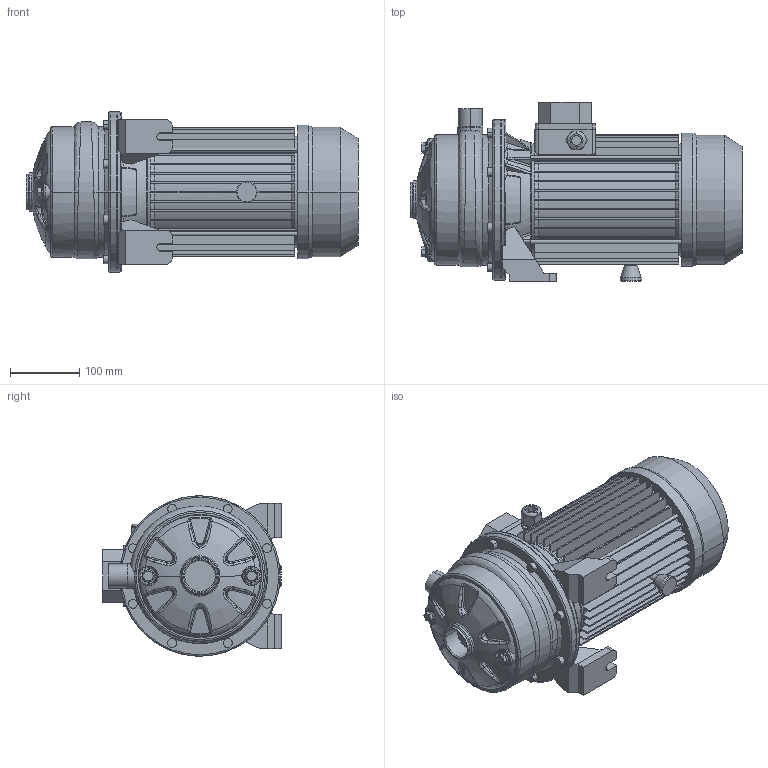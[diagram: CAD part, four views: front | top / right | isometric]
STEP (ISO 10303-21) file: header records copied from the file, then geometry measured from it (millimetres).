
FILE_DESCRIPTION((''),'2;1');
FILE_NAME('2CDX_200_50_IE2_ASM','2011-06-30T',('Utente'),('"Ebara Pumps Europe +39.444.706811"'),'PRO/ENGINEER BY PARAMETRIC TECHNOLOGY CORPORATION, 2009360','PRO/ENGINEER BY PARAMETRIC TECHNOLOGY CORPORATION, 2009360','');
FILE_SCHEMA(('AUTOMOTIVE_DESIGN { 1 0 10303 214 1 1 1 1 }'));
Length unit declared in the file: millimetre
Products named in the file (5): MEC_100X170_IE2; 80566; 251420693; 72027; 2CDX_200_50_IE2_ASM
Assembly tree (4 placements, depth 2):
  2CDX_200_50_IE2_ASM
    MEC_100X170_IE2
    80566
    251420693
    72027
Bounding box: 480.5 x 259 x 232 mm (x, y, z)
Volume: 6911119.9 mm3; surface area: 929866 mm2
Topology: 4 solids, 4 shells, 883 faces, 2127 edges, 1292 vertices
Faces by surface type: plane 389, cylinder 164, bspline 148, cone 108, torus 60, sphere 14
Entity records: 41344 total; most frequent: CARTESIAN_POINT 13975, ORIENTED_EDGE 4254, DIRECTION 3827, EDGE_CURVE 2127, PRESENTATION_STYLE_ASSIGNMENT 2116, STYLED_ITEM 2116, CURVE_STYLE 2113, AXIS2_PLACEMENT_3D 1502
